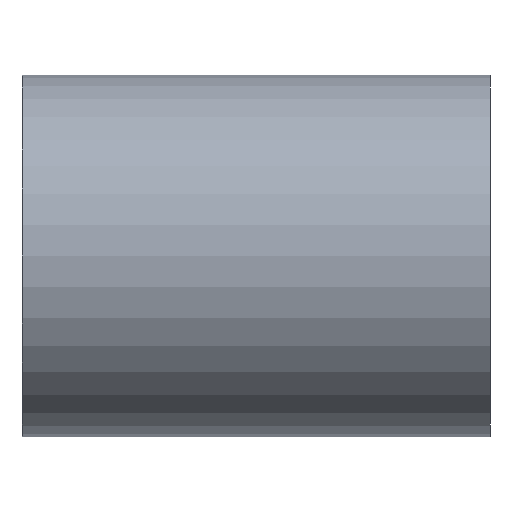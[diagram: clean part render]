
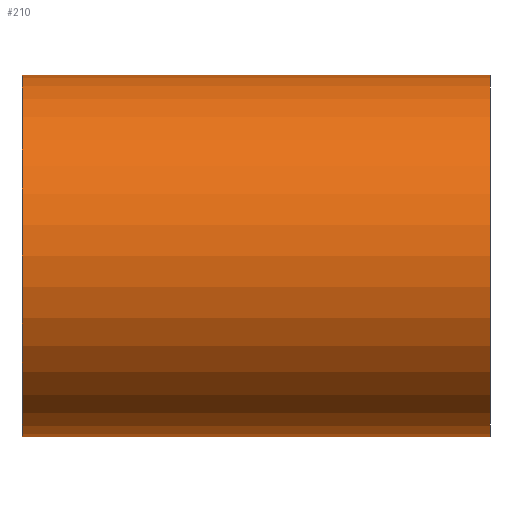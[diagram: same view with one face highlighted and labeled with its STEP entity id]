
A CAD part, front view. The second image highlights one B-rep face of the part: STEP entity #210.
In plain terms, the highlighted cylindrical face has radius 725 mm (diameter 1450 mm), a partial arc.
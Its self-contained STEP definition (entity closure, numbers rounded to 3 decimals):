
#210=ADVANCED_FACE('',(#422),#423,.T.);
#422=FACE_OUTER_BOUND('',#669,.T.);
#423=CYLINDRICAL_SURFACE('',#670,725.0);
#669=EDGE_LOOP('',(#1231,#1232,#1233,#1234));
#670=AXIS2_PLACEMENT_3D('',#1235,#1236,#1237);
#1231=ORIENTED_EDGE('',*,*,#1335,.T.);
#1232=ORIENTED_EDGE('',*,*,#1573,.F.);
#1233=ORIENTED_EDGE('',*,*,#1337,.T.);
#1234=ORIENTED_EDGE('',*,*,#1574,.F.);
#1235=CARTESIAN_POINT('',(0.0,0.0,0.0));
#1236=DIRECTION('',(1.0,0.0,0.0));
#1237=DIRECTION('',(0.0,0.0,-1.0));
#1335=EDGE_CURVE('',#1578,#1579,#1580,.T.);
#1337=EDGE_CURVE('',#1583,#1581,#1584,.T.);
#1573=EDGE_CURVE('',#1583,#1579,#1935,.T.);
#1574=EDGE_CURVE('',#1578,#1581,#1936,.T.);
#1578=VERTEX_POINT('',#1940);
#1579=VERTEX_POINT('',#1941);
#1580=LINE('',#1942,#1943);
#1581=VERTEX_POINT('',#1944);
#1583=VERTEX_POINT('',#1946);
#1584=LINE('',#1947,#1948);
#1935=CIRCLE('',#2367,725.0);
#1936=CIRCLE('',#2368,725.0);
#1940=CARTESIAN_POINT('',(-937.5,0.0,-725.0));
#1941=CARTESIAN_POINT('',(937.5,0.0,-725.0));
#1942=CARTESIAN_POINT('',(0.0,0.,-725.0));
#1943=VECTOR('',#2371,1.0);
#1944=CARTESIAN_POINT('',(-937.5,0.,725.0));
#1946=CARTESIAN_POINT('',(937.5,0.,725.0));
#1947=CARTESIAN_POINT('',(0.0,0.,725.0));
#1948=VECTOR('',#2375,1.0);
#2367=AXIS2_PLACEMENT_3D('',#2762,#2763,#2764);
#2368=AXIS2_PLACEMENT_3D('',#2765,#2766,#2767);
#2371=DIRECTION('',(1.0,0.0,0.0));
#2375=DIRECTION('',(-1.0,-0.0,-0.0));
#2762=CARTESIAN_POINT('',(937.5,0.0,0.0));
#2763=DIRECTION('',(1.0,0.0,0.0));
#2764=DIRECTION('',(0.0,0.0,-1.0));
#2765=CARTESIAN_POINT('',(-937.5,0.0,0.0));
#2766=DIRECTION('',(-1.0,0.0,0.0));
#2767=DIRECTION('',(0.0,0.0,-1.0));
